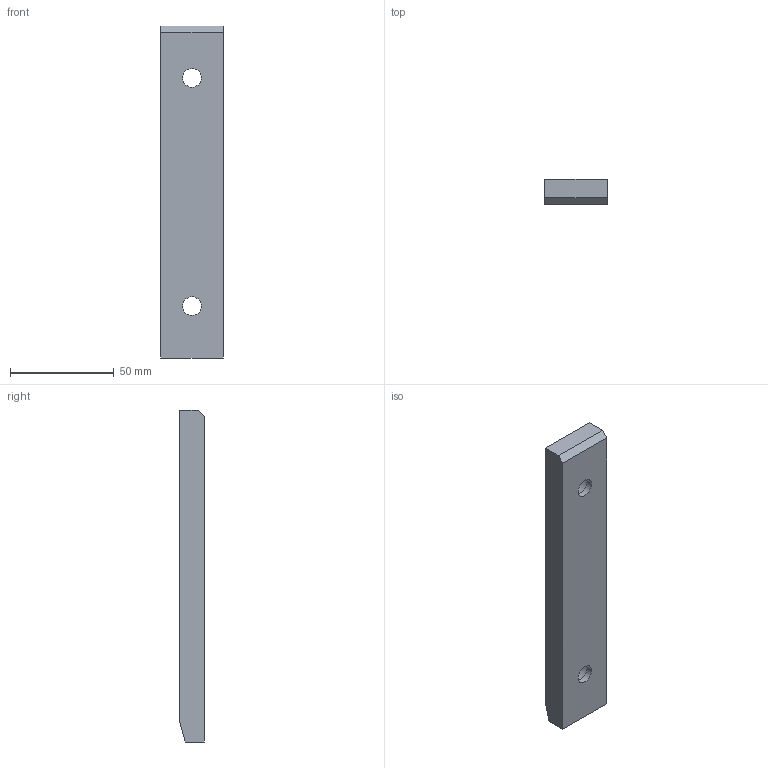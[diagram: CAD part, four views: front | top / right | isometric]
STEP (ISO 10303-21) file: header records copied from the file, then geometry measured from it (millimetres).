
FILE_DESCRIPTION (( 'STEP AP214' ), '1' );
FILE_NAME ('SW222-01-30x160.STEP', '2020-10-14T12:30:05', ( 'August' ), ( '' ), 'SwSTEP 2.0', 'SolidWorks 2018', '' );
FILE_SCHEMA (( 'AUTOMOTIVE_DESIGN' ));
Length unit declared in the file: millimetre
Products named in the file (1): SW222-01-30x160
Bounding box: 30 x 12 x 160 mm (x, y, z)
Volume: 46758.6 mm3; surface area: 19224.1 mm2
Topology: 1 solids, 1 shells, 128 faces, 263 edges, 174 vertices
Faces by surface type: cylinder 79, plane 45, cone 4
Entity records: 3752 total; most frequent: DIRECTION 683, CARTESIAN_POINT 566, ORIENTED_EDGE 526, AXIS2_PLACEMENT_3D 291, EDGE_CURVE 263, VERTEX_POINT 174, EDGE_LOOP 169, CIRCLE 162
